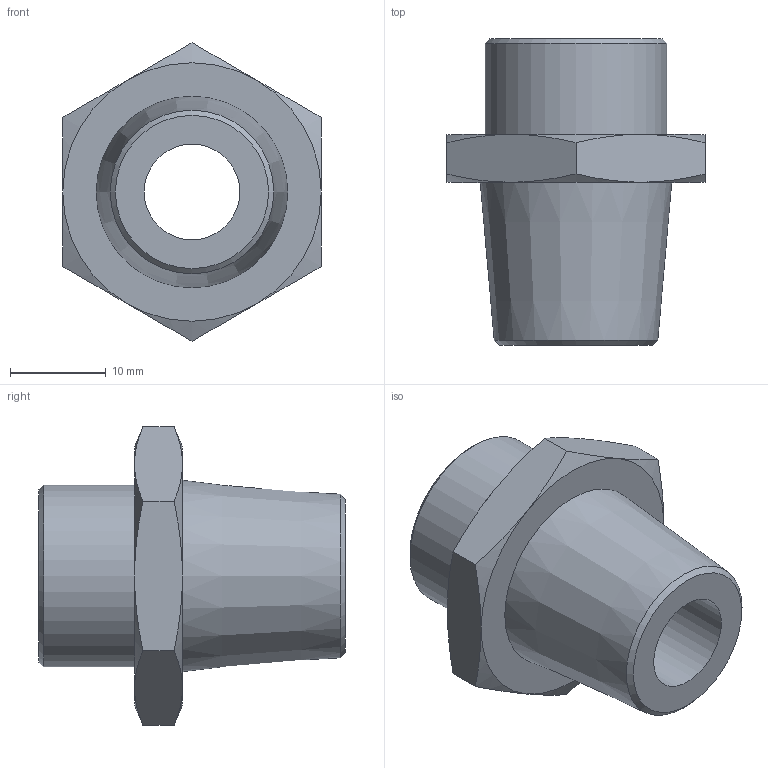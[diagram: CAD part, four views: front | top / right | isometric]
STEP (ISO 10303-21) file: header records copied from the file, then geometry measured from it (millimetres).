
FILE_DESCRIPTION(/* description */ (''),/* implementation_level */ '2;1');
FILE_NAME(/* name */ 'BXH81 B4N4 00.stp',/* time_stamp */ '2024-12-18T18:19:03+01:00',/* author */ ('freju'),/* organization */ (''),/* preprocessor_version */ 'ST-DEVELOPER v20',/* originating_system */ 'Autodesk Inventor 2025',/* authorisation */ '');
FILE_SCHEMA (('AUTOMOTIVE_DESIGN { 1 0 10303 214 3 1 1 }'));
Length unit declared in the file: millimetre
Products named in the file (1): BXH81 B4N4 00
Bounding box: 27 x 32 x 31.18 mm (x, y, z)
Volume: 8013.6 mm3; surface area: 4001.9 mm2
Topology: 1 solids, 1 shells, 27 faces, 57 edges, 34 vertices
Faces by surface type: cone 15, plane 10, cylinder 2
Full cylindrical faces by diameter (mm): 10 x1, 19 x1
Entity records: 740 total; most frequent: CARTESIAN_POINT 167, ORIENTED_EDGE 114, DIRECTION 111, EDGE_CURVE 57, AXIS2_PLACEMENT_3D 50, VERTEX_POINT 34, EDGE_LOOP 31, FACE_OUTER_BOUND 27
